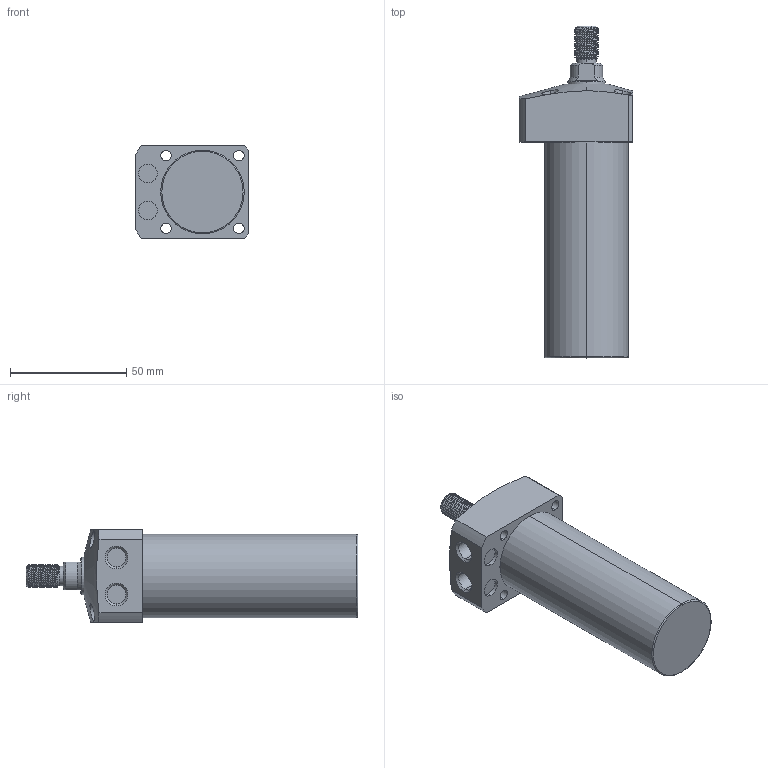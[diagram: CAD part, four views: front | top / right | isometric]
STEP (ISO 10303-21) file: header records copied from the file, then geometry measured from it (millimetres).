
FILE_DESCRIPTION (( 'STEP AP203' ), '1' );
FILE_NAME ('CLL-036CT-070.STEP', '2020-01-08T08:48:10', ( '' ), ( '' ), 'SwSTEP 2.0', 'SolidWorks 2015', '' );
FILE_SCHEMA (( 'CONFIG_CONTROL_DESIGN' ));
Length unit declared in the file: millimetre
Products named in the file (1): CLL-036CT-070
Bounding box: 49 x 143 x 40 mm (x, y, z)
Volume: 137563.5 mm3; surface area: 21176.9 mm2
Topology: 1 solids, 1 shells, 103 faces, 256 edges, 166 vertices
Faces by surface type: cylinder 61, plane 23, cone 15, torus 2, bspline 2
Entity records: 5000 total; most frequent: CARTESIAN_POINT 2604, ORIENTED_EDGE 512, DIRECTION 457, EDGE_CURVE 256, AXIS2_PLACEMENT_3D 184, VERTEX_POINT 166, EDGE_LOOP 122, ADVANCED_FACE 103
